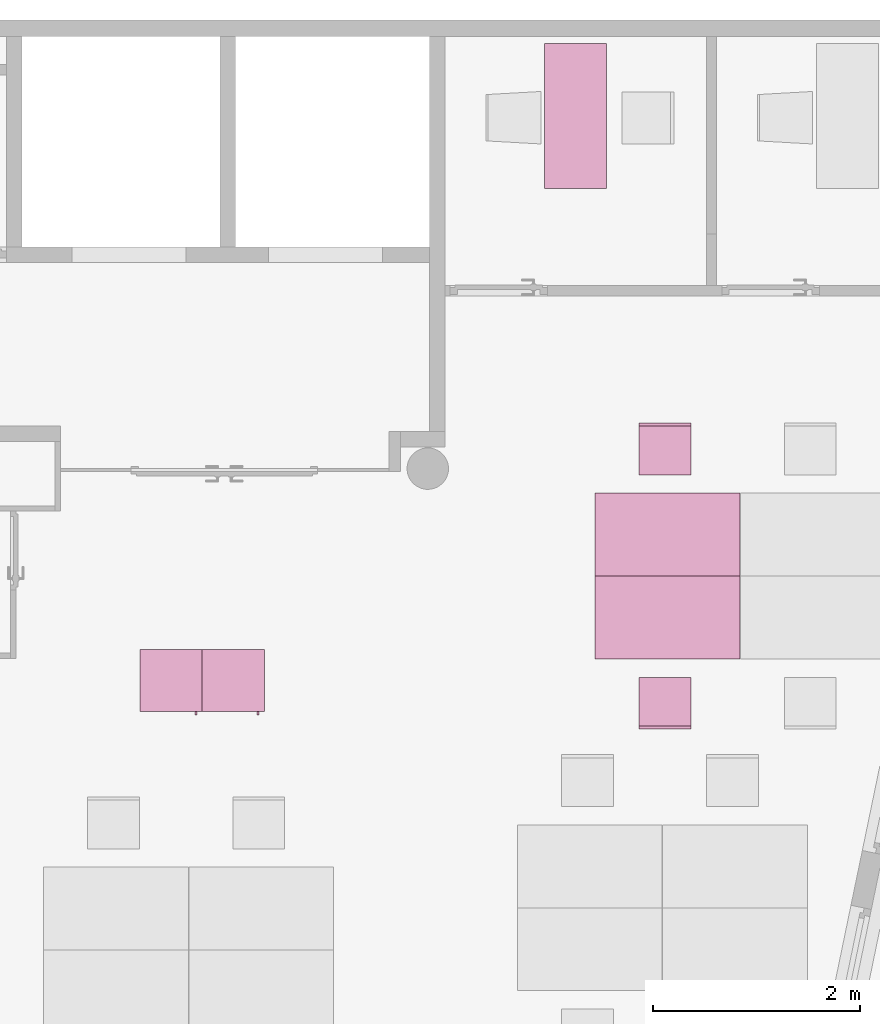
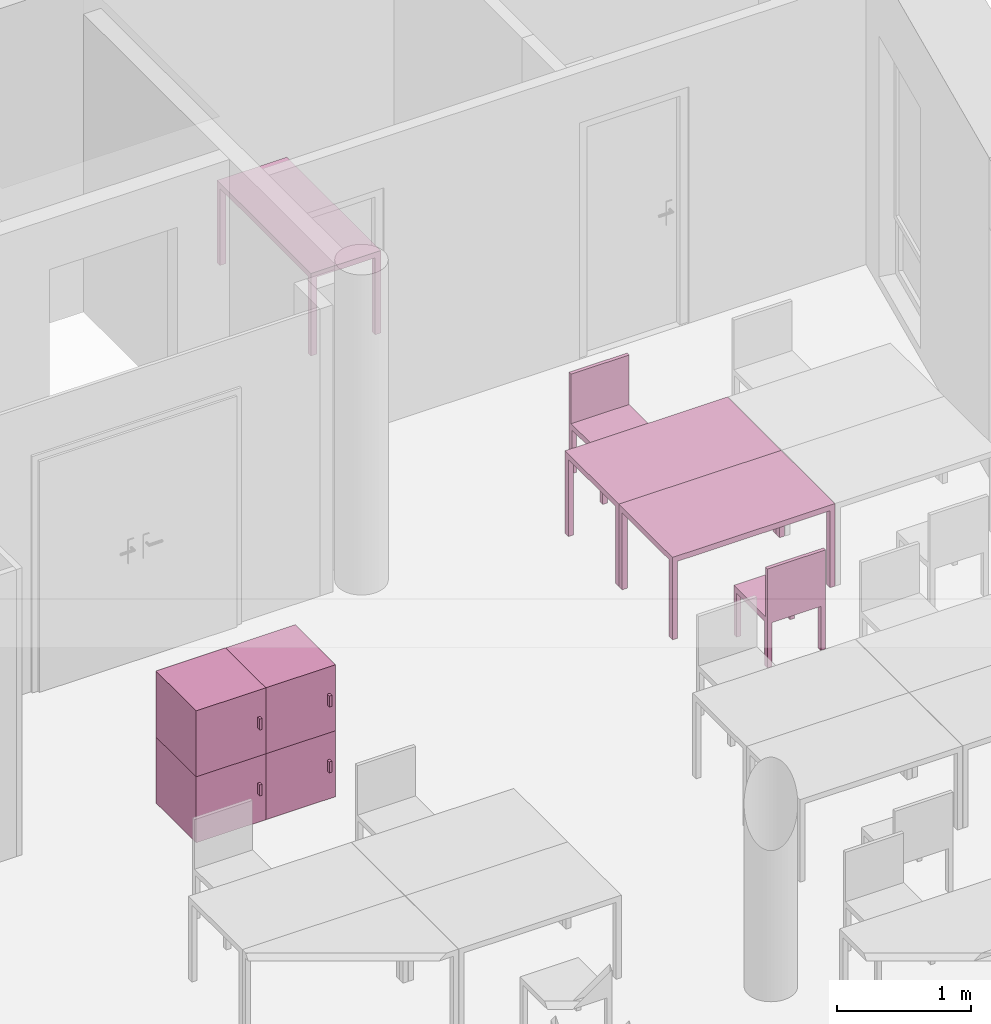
"""IFC4 building model written with IfcOpenShell, lengths in metres."""

from ifc_helpers import new_model, entity, si_unit, converted_unit, derived_unit, frame, origin, place, context, subcontext, project, spatial, faceted_brep, element, save


model = new_model("IFC4")

# Units and contexts
model_context = context("Model", 3, precision=1e-05, world=origin())
body_context = subcontext(model_context, "Body", "Model", "MODEL_VIEW")
ifc_project = project(units=[si_unit("LENGTHUNIT", "METRE"), si_unit("AREAUNIT", "SQUARE_METRE"), si_unit("VOLUMEUNIT", "CUBIC_METRE"), si_unit("MASSUNIT", "GRAM", prefix="KILO"), converted_unit("PLANEANGLEUNIT", "DEGREE", entity("IfcPlaneAngleMeasure", 0.0174532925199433), si_unit("PLANEANGLEUNIT", "RADIAN"), dimensions=[0, 0, 0, 0, 0, 0, 0]), derived_unit("THERMALTRANSMITTANCEUNIT", [(si_unit("POWERUNIT", "WATT"), 1), (si_unit("THERMODYNAMICTEMPERATUREUNIT", "KELVIN"), -1), (si_unit("LENGTHUNIT", "METRE"), -2)]), derived_unit("VOLUMETRICFLOWRATEUNIT", [(si_unit("LENGTHUNIT", "METRE"), 3), (converted_unit("TIMEUNIT", "hour", entity("IfcTimeMeasure", 3600.0), si_unit("TIMEUNIT", "SECOND"), dimensions=[0, 0, 1, 0, 0, 0, 0]), -1), (si_unit("LENGTHUNIT", "METRE"), -1)])], contexts=[model_context])

# Building, storeys
building_placement = place(None, origin())
building = spatial("IfcBuilding", under=ifc_project, at=building_placement, Name="HABITATGE PLURIFAMILIAR", CompositionType="ELEMENT")
storey_1_placement = place(building_placement, frame((0.0, 0.0, 18.29)))
storey_1 = spatial("IfcBuildingStorey", under=building, at=storey_1_placement, Name="PLANTA CINQUENA", CompositionType="ELEMENT", Elevation=18.29)
storey_2_placement = place(storey_1_placement, frame((0.0, 0.0, 15.28)))
storey_2 = spatial("IfcBuildingStorey", under=storey_1, at=storey_2_placement, Name="NOU", CompositionType="PARTIAL")

# Furniture
furniture_1_placement = place(storey_2_placement, frame((418.815159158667, 21.5243582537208, -15.2800000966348)))
element("IfcFurniture", 1, at=furniture_1_placement, inside=storey_2, Name="Armai 60x60x60_P5", context=body_context, shape_type="Brep", body=[
    faceted_brep([(0.600000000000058, 0.0300000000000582, 0.02), (0.600000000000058, 0.0300000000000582, 0.0), (0.0, 0.0300000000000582, 0.0), (0.0, 0.0300000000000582, 0.02), (0.0, 0.630000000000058, 0.0), (0.0, 0.630000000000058, 0.02), (0.600000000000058, 0.630000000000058, 0.0), (0.600000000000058, 0.630000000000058, 0.02)], [[[0, 1, 2, 3]], [[3, 2, 4, 5]], [[5, 4, 6, 7]], [[7, 6, 1, 0]], [[0, 3, 5, 7]], [[1, 6, 4, 2]]], orient=[[False], [False], [False], [False], [False], [False]]),
    faceted_brep([(0.02, 0.63, 0.58), (0.02, 0.61, 0.58), (0.02, 0.61, 0.02), (0.02, 0.63, 0.02), (0.58, 0.61, 0.02), (0.58, 0.63, 0.02), (0.58, 0.61, 0.58), (0.58, 0.63, 0.58)], [[[0, 1, 2, 3]], [[3, 2, 4, 5]], [[5, 4, 6, 7]], [[7, 6, 1, 0]], [[0, 3, 5, 7]], [[1, 6, 4, 2]]], orient=[[False], [False], [False], [False], [False], [False]]),
    faceted_brep([(0.58, 0.0300000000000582, 0.58), (0.6, 0.0300000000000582, 0.58), (0.6, 0.0300000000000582, 0.02), (0.58, 0.0300000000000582, 0.02), (0.6, 0.630000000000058, 0.02), (0.58, 0.630000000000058, 0.02), (0.6, 0.630000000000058, 0.58), (0.58, 0.630000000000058, 0.58)], [[[0, 1, 2, 3]], [[3, 2, 4, 5]], [[5, 4, 6, 7]], [[7, 6, 1, 0]], [[0, 3, 5, 7]], [[1, 6, 4, 2]]], orient=[[False], [False], [False], [False], [False], [False]]),
    faceted_brep([(0.600000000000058, 0.0500000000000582, 0.58), (0.600000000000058, 0.0300000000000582, 0.58), (0.600000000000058, 0.0300000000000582, 0.02), (0.600000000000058, 0.0500000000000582, 0.02), (0.580000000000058, 0.0300000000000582, 0.02), (0.580000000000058, 0.0500000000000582, 0.02), (0.580000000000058, 0.0300000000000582, 0.58), (0.580000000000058, 0.0500000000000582, 0.58)], [[[0, 1, 2, 3]], [[3, 2, 4, 5]], [[5, 4, 6, 7]], [[7, 6, 1, 0]], [[0, 3, 5, 7]], [[1, 6, 4, 2]]], orient=[[False], [False], [False], [False], [False], [False]]),
    faceted_brep([(0.0, 0.0300000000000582, 0.58), (0.0200000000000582, 0.0300000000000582, 0.58), (0.0200000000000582, 0.0300000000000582, 0.02), (0.0, 0.0300000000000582, 0.02), (0.0200000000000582, 0.630000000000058, 0.02), (0.0, 0.630000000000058, 0.02), (0.0200000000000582, 0.630000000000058, 0.58), (0.0, 0.630000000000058, 0.58)], [[[0, 1, 2, 3]], [[3, 2, 4, 5]], [[5, 4, 6, 7]], [[7, 6, 1, 0]], [[0, 3, 5, 7]], [[1, 6, 4, 2]]], orient=[[False], [False], [False], [False], [False], [False]]),
    faceted_brep([(0.6, 0.03, 0.6), (0.6, 0.03, 0.58), (0.0, 0.03, 0.58), (0.0, 0.03, 0.6), (0.0, 0.63, 0.58), (0.0, 0.63, 0.6), (0.6, 0.63, 0.58), (0.6, 0.63, 0.6)], [[[0, 1, 2, 3]], [[3, 2, 4, 5]], [[5, 4, 6, 7]], [[7, 6, 1, 0]], [[0, 3, 5, 7]], [[1, 6, 4, 2]]], orient=[[False], [False], [False], [False], [False], [False]]),
    faceted_brep([(0.02, 0.05, 0.58), (0.02, 0.03, 0.58), (0.02, 0.03, 0.02), (0.02, 0.05, 0.02), (0.580000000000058, 0.03, 0.02), (0.580000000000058, 0.05, 0.02), (0.580000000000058, 0.03, 0.58), (0.580000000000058, 0.05, 0.58)], [[[0, 1, 2, 3]], [[3, 2, 4, 5]], [[5, 4, 6, 7]], [[7, 6, 1, 0]], [[0, 3, 5, 7]], [[1, 6, 4, 2]]], orient=[[False], [False], [False], [False], [False], [False]]),
    faceted_brep([(0.53, 0.03, 0.358064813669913), (0.53, 0.0, 0.358064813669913), (0.53, 0.0, 0.258064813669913), (0.53, 0.03, 0.258064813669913), (0.55, 0.0, 0.258064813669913), (0.55, 0.03, 0.258064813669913), (0.55, 0.0, 0.358064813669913), (0.55, 0.03, 0.358064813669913)], [[[0, 1, 2, 3]], [[3, 2, 4, 5]], [[5, 4, 6, 7]], [[7, 6, 1, 0]], [[0, 3, 5, 7]], [[1, 6, 4, 2]]], orient=[[False], [False], [False], [False], [False], [False]]),
])
furniture_2_placement = place(storey_2_placement, frame((418.215159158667, 21.5243582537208, -15.2800000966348)))
element("IfcFurniture", 2, at=furniture_2_placement, inside=storey_2, Name="Armai 60x60x60_P5", context=body_context, shape_type="Brep", body=[
    faceted_brep([(0.600000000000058, 0.0300000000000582, 0.02), (0.600000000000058, 0.0300000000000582, 0.0), (0.0, 0.0300000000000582, 0.0), (0.0, 0.0300000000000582, 0.02), (0.0, 0.630000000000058, 0.0), (0.0, 0.630000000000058, 0.02), (0.600000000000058, 0.630000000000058, 0.0), (0.600000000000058, 0.630000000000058, 0.02)], [[[0, 1, 2, 3]], [[3, 2, 4, 5]], [[5, 4, 6, 7]], [[7, 6, 1, 0]], [[0, 3, 5, 7]], [[1, 6, 4, 2]]], orient=[[False], [False], [False], [False], [False], [False]]),
    faceted_brep([(0.02, 0.63, 0.58), (0.02, 0.61, 0.58), (0.02, 0.61, 0.02), (0.02, 0.63, 0.02), (0.58, 0.61, 0.02), (0.58, 0.63, 0.02), (0.58, 0.61, 0.58), (0.58, 0.63, 0.58)], [[[0, 1, 2, 3]], [[3, 2, 4, 5]], [[5, 4, 6, 7]], [[7, 6, 1, 0]], [[0, 3, 5, 7]], [[1, 6, 4, 2]]], orient=[[False], [False], [False], [False], [False], [False]]),
    faceted_brep([(0.58, 0.0300000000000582, 0.58), (0.6, 0.0300000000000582, 0.58), (0.6, 0.0300000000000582, 0.02), (0.58, 0.0300000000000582, 0.02), (0.6, 0.630000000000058, 0.02), (0.58, 0.630000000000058, 0.02), (0.6, 0.630000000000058, 0.58), (0.58, 0.630000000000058, 0.58)], [[[0, 1, 2, 3]], [[3, 2, 4, 5]], [[5, 4, 6, 7]], [[7, 6, 1, 0]], [[0, 3, 5, 7]], [[1, 6, 4, 2]]], orient=[[False], [False], [False], [False], [False], [False]]),
    faceted_brep([(0.600000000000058, 0.0500000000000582, 0.58), (0.600000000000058, 0.0300000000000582, 0.58), (0.600000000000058, 0.0300000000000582, 0.02), (0.600000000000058, 0.0500000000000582, 0.02), (0.580000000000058, 0.0300000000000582, 0.02), (0.580000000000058, 0.0500000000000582, 0.02), (0.580000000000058, 0.0300000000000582, 0.58), (0.580000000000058, 0.0500000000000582, 0.58)], [[[0, 1, 2, 3]], [[3, 2, 4, 5]], [[5, 4, 6, 7]], [[7, 6, 1, 0]], [[0, 3, 5, 7]], [[1, 6, 4, 2]]], orient=[[False], [False], [False], [False], [False], [False]]),
    faceted_brep([(0.0, 0.0300000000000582, 0.58), (0.0200000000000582, 0.0300000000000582, 0.58), (0.0200000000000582, 0.0300000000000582, 0.02), (0.0, 0.0300000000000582, 0.02), (0.0200000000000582, 0.630000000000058, 0.02), (0.0, 0.630000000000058, 0.02), (0.0200000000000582, 0.630000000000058, 0.58), (0.0, 0.630000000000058, 0.58)], [[[0, 1, 2, 3]], [[3, 2, 4, 5]], [[5, 4, 6, 7]], [[7, 6, 1, 0]], [[0, 3, 5, 7]], [[1, 6, 4, 2]]], orient=[[False], [False], [False], [False], [False], [False]]),
    faceted_brep([(0.6, 0.03, 0.6), (0.6, 0.03, 0.58), (0.0, 0.03, 0.58), (0.0, 0.03, 0.6), (0.0, 0.63, 0.58), (0.0, 0.63, 0.6), (0.6, 0.63, 0.58), (0.6, 0.63, 0.6)], [[[0, 1, 2, 3]], [[3, 2, 4, 5]], [[5, 4, 6, 7]], [[7, 6, 1, 0]], [[0, 3, 5, 7]], [[1, 6, 4, 2]]], orient=[[False], [False], [False], [False], [False], [False]]),
    faceted_brep([(0.02, 0.05, 0.58), (0.02, 0.03, 0.58), (0.02, 0.03, 0.02), (0.02, 0.05, 0.02), (0.580000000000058, 0.03, 0.02), (0.580000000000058, 0.05, 0.02), (0.580000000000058, 0.03, 0.58), (0.580000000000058, 0.05, 0.58)], [[[0, 1, 2, 3]], [[3, 2, 4, 5]], [[5, 4, 6, 7]], [[7, 6, 1, 0]], [[0, 3, 5, 7]], [[1, 6, 4, 2]]], orient=[[False], [False], [False], [False], [False], [False]]),
    faceted_brep([(0.53, 0.03, 0.358064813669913), (0.53, 0.0, 0.358064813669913), (0.53, 0.0, 0.258064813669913), (0.53, 0.03, 0.258064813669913), (0.55, 0.0, 0.258064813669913), (0.55, 0.03, 0.258064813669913), (0.55, 0.0, 0.358064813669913), (0.55, 0.03, 0.358064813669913)], [[[0, 1, 2, 3]], [[3, 2, 4, 5]], [[5, 4, 6, 7]], [[7, 6, 1, 0]], [[0, 3, 5, 7]], [[1, 6, 4, 2]]], orient=[[False], [False], [False], [False], [False], [False]]),
])
furniture_3_placement = place(storey_2_placement, frame((422.606825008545, 22.8623892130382, -15.28)))
element("IfcFurniture", 3, at=furniture_3_placement, inside=storey_2, Name="Taula 140X80_P5", context=body_context, shape_type="Brep", body=[
    faceted_brep([(0.04375, 0.05, 0.0), (0.0, 0.05, 0.0), (0.0, 0.0, 0.0), (0.04375, 0.0, 0.0), (0.04375, 0.0, 0.7), (0.0, 0.0, 0.7), (0.0, 0.05, 0.7), (0.04375, 0.05, 0.7)], [[[0, 1, 2, 3]], [[4, 5, 6, 7]], [[3, 4, 7, 0]], [[2, 5, 4, 3]], [[1, 6, 5, 2]], [[0, 7, 6, 1]]], orient=[[False], [False], [False], [False], [False], [False]]),
    faceted_brep([(0.04375, 0.800069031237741, 0.0), (0.0, 0.800069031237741, 0.0), (0.0, 0.750069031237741, 0.0), (0.04375, 0.750069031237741, 0.0), (0.04375, 0.750069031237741, 0.7), (0.0, 0.750069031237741, 0.7), (0.0, 0.800069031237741, 0.7), (0.04375, 0.800069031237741, 0.7)], [[[0, 1, 2, 3]], [[4, 5, 6, 7]], [[3, 4, 7, 0]], [[2, 5, 4, 3]], [[1, 6, 5, 2]], [[0, 7, 6, 1]]], orient=[[False], [False], [False], [False], [False], [False]]),
    faceted_brep([(1.39732768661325, 0.800069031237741, 0.7), (0.0, 0.800069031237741, 0.7), (0.0, 0.0, 0.7), (1.39732768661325, 0.0, 0.7), (1.39732768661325, 0.0, 0.75), (0.0, 0.0, 0.75), (0.0, 0.800069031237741, 0.75), (1.39732768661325, 0.800069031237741, 0.75)], [[[0, 1, 2, 3]], [[4, 5, 6, 7]], [[3, 4, 7, 0]], [[2, 5, 4, 3]], [[1, 6, 5, 2]], [[0, 7, 6, 1]]], orient=[[False], [False], [False], [False], [False], [False]]),
    faceted_brep([(1.39732768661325, 0.05, 0.0), (1.35357768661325, 0.05, 0.0), (1.35357768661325, 0.0, 0.0), (1.39732768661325, 0.0, 0.0), (1.39732768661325, 0.0, 0.7), (1.35357768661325, 0.0, 0.7), (1.35357768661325, 0.05, 0.7), (1.39732768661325, 0.05, 0.7)], [[[0, 1, 2, 3]], [[4, 5, 6, 7]], [[3, 4, 7, 0]], [[2, 5, 4, 3]], [[1, 6, 5, 2]], [[0, 7, 6, 1]]], orient=[[False], [False], [False], [False], [False], [False]]),
    faceted_brep([(1.39732768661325, 0.800069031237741, 0.0), (1.35357768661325, 0.800069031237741, 0.0), (1.35357768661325, 0.750069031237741, 0.0), (1.39732768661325, 0.750069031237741, 0.0), (1.39732768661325, 0.750069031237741, 0.7), (1.35357768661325, 0.750069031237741, 0.7), (1.35357768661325, 0.800069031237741, 0.7), (1.39732768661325, 0.800069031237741, 0.7)], [[[0, 1, 2, 3]], [[4, 5, 6, 7]], [[3, 4, 7, 0]], [[2, 5, 4, 3]], [[1, 6, 5, 2]], [[0, 7, 6, 1]]], orient=[[False], [False], [False], [False], [False], [False]]),
])
furniture_4_placement = place(storey_2_placement, frame((422.606825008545, 22.0623201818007, -15.28)))
element("IfcFurniture", 4, at=furniture_4_placement, inside=storey_2, Name="Taula 140X80_P5", context=body_context, shape_type="Brep", body=[
    faceted_brep([(0.04375, 0.750069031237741, 0.0), (0.04375, 0.800069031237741, 0.0), (0.0, 0.800069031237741, 0.0), (0.0, 0.750069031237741, 0.0), (0.04375, 0.800069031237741, 0.7), (0.04375, 0.750069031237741, 0.7), (0.0, 0.750069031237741, 0.7), (0.0, 0.800069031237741, 0.7)], [[[0, 1, 2, 3]], [[4, 5, 6, 7]], [[1, 0, 5, 4]], [[2, 1, 4, 7]], [[3, 2, 7, 6]], [[0, 3, 6, 5]]], orient=[[False], [False], [False], [False], [False], [False]]),
    faceted_brep([(0.04375, 0.0, 0.0), (0.04375, 0.05, 0.0), (0.0, 0.05, 0.0), (0.0, 0.0, 0.0), (0.04375, 0.05, 0.7), (0.04375, 0.0, 0.7), (0.0, 0.0, 0.7), (0.0, 0.05, 0.7)], [[[0, 1, 2, 3]], [[4, 5, 6, 7]], [[1, 0, 5, 4]], [[2, 1, 4, 7]], [[3, 2, 7, 6]], [[0, 3, 6, 5]]], orient=[[False], [False], [False], [False], [False], [False]]),
    faceted_brep([(1.39732768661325, 0.0, 0.7), (1.39732768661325, 0.800069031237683, 0.7), (0.0, 0.800069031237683, 0.7), (0.0, 0.0, 0.7), (1.39732768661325, 0.800069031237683, 0.75), (1.39732768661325, 0.0, 0.75), (0.0, 0.0, 0.75), (0.0, 0.800069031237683, 0.75)], [[[0, 1, 2, 3]], [[4, 5, 6, 7]], [[1, 0, 5, 4]], [[2, 1, 4, 7]], [[3, 2, 7, 6]], [[0, 3, 6, 5]]], orient=[[False], [False], [False], [False], [False], [False]]),
    faceted_brep([(1.39732768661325, 0.750069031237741, 0.0), (1.39732768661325, 0.800069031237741, 0.0), (1.35357768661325, 0.800069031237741, 0.0), (1.35357768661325, 0.750069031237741, 0.0), (1.39732768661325, 0.800069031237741, 0.7), (1.39732768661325, 0.750069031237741, 0.7), (1.35357768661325, 0.750069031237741, 0.7), (1.35357768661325, 0.800069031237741, 0.7)], [[[0, 1, 2, 3]], [[4, 5, 6, 7]], [[1, 0, 5, 4]], [[2, 1, 4, 7]], [[3, 2, 7, 6]], [[0, 3, 6, 5]]], orient=[[False], [False], [False], [False], [False], [False]]),
    faceted_brep([(1.39732768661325, 0.0, 0.0), (1.39732768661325, 0.05, 0.0), (1.35357768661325, 0.05, 0.0), (1.35357768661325, 0.0, 0.0), (1.39732768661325, 0.05, 0.7), (1.39732768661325, 0.0, 0.7), (1.35357768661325, 0.0, 0.7), (1.35357768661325, 0.05, 0.7)], [[[0, 1, 2, 3]], [[4, 5, 6, 7]], [[1, 0, 5, 4]], [[2, 1, 4, 7]], [[3, 2, 7, 6]], [[0, 3, 6, 5]]], orient=[[False], [False], [False], [False], [False], [False]]),
])
furniture_5_placement = place(storey_2_placement, frame((418.815159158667, 21.5243582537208, -14.6800000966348)))
element("IfcFurniture", 5, at=furniture_5_placement, inside=storey_2, Name="Armai 60x60x60_P5", context=body_context, shape_type="Brep", body=[
    faceted_brep([(0.600000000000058, 0.0300000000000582, 0.02), (0.600000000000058, 0.0300000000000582, 0.0), (0.0, 0.0300000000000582, 0.0), (0.0, 0.0300000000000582, 0.02), (0.0, 0.630000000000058, 0.0), (0.0, 0.630000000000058, 0.02), (0.600000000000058, 0.630000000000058, 0.0), (0.600000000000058, 0.630000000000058, 0.02)], [[[0, 1, 2, 3]], [[3, 2, 4, 5]], [[5, 4, 6, 7]], [[7, 6, 1, 0]], [[0, 3, 5, 7]], [[1, 6, 4, 2]]], orient=[[False], [False], [False], [False], [False], [False]]),
    faceted_brep([(0.02, 0.63, 0.58), (0.02, 0.61, 0.58), (0.02, 0.61, 0.02), (0.02, 0.63, 0.02), (0.58, 0.61, 0.02), (0.58, 0.63, 0.02), (0.58, 0.61, 0.58), (0.58, 0.63, 0.58)], [[[0, 1, 2, 3]], [[3, 2, 4, 5]], [[5, 4, 6, 7]], [[7, 6, 1, 0]], [[0, 3, 5, 7]], [[1, 6, 4, 2]]], orient=[[False], [False], [False], [False], [False], [False]]),
    faceted_brep([(0.58, 0.0300000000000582, 0.58), (0.6, 0.0300000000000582, 0.58), (0.6, 0.0300000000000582, 0.02), (0.58, 0.0300000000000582, 0.02), (0.6, 0.630000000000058, 0.02), (0.58, 0.630000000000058, 0.02), (0.6, 0.630000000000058, 0.58), (0.58, 0.630000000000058, 0.58)], [[[0, 1, 2, 3]], [[3, 2, 4, 5]], [[5, 4, 6, 7]], [[7, 6, 1, 0]], [[0, 3, 5, 7]], [[1, 6, 4, 2]]], orient=[[False], [False], [False], [False], [False], [False]]),
    faceted_brep([(0.600000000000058, 0.0500000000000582, 0.58), (0.600000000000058, 0.0300000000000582, 0.58), (0.600000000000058, 0.0300000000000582, 0.02), (0.600000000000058, 0.0500000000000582, 0.02), (0.580000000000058, 0.0300000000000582, 0.02), (0.580000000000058, 0.0500000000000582, 0.02), (0.580000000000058, 0.0300000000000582, 0.58), (0.580000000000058, 0.0500000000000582, 0.58)], [[[0, 1, 2, 3]], [[3, 2, 4, 5]], [[5, 4, 6, 7]], [[7, 6, 1, 0]], [[0, 3, 5, 7]], [[1, 6, 4, 2]]], orient=[[False], [False], [False], [False], [False], [False]]),
    faceted_brep([(0.0, 0.0300000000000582, 0.58), (0.0200000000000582, 0.0300000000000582, 0.58), (0.0200000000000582, 0.0300000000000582, 0.02), (0.0, 0.0300000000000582, 0.02), (0.0200000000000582, 0.630000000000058, 0.02), (0.0, 0.630000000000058, 0.02), (0.0200000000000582, 0.630000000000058, 0.58), (0.0, 0.630000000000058, 0.58)], [[[0, 1, 2, 3]], [[3, 2, 4, 5]], [[5, 4, 6, 7]], [[7, 6, 1, 0]], [[0, 3, 5, 7]], [[1, 6, 4, 2]]], orient=[[False], [False], [False], [False], [False], [False]]),
    faceted_brep([(0.6, 0.03, 0.6), (0.6, 0.03, 0.58), (0.0, 0.03, 0.58), (0.0, 0.03, 0.6), (0.0, 0.63, 0.58), (0.0, 0.63, 0.6), (0.6, 0.63, 0.58), (0.6, 0.63, 0.6)], [[[0, 1, 2, 3]], [[3, 2, 4, 5]], [[5, 4, 6, 7]], [[7, 6, 1, 0]], [[0, 3, 5, 7]], [[1, 6, 4, 2]]], orient=[[False], [False], [False], [False], [False], [False]]),
    faceted_brep([(0.02, 0.05, 0.58), (0.02, 0.03, 0.58), (0.02, 0.03, 0.02), (0.02, 0.05, 0.02), (0.580000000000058, 0.03, 0.02), (0.580000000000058, 0.05, 0.02), (0.580000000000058, 0.03, 0.58), (0.580000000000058, 0.05, 0.58)], [[[0, 1, 2, 3]], [[3, 2, 4, 5]], [[5, 4, 6, 7]], [[7, 6, 1, 0]], [[0, 3, 5, 7]], [[1, 6, 4, 2]]], orient=[[False], [False], [False], [False], [False], [False]]),
    faceted_brep([(0.53, 0.03, 0.358064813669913), (0.53, 0.0, 0.358064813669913), (0.53, 0.0, 0.258064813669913), (0.53, 0.03, 0.258064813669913), (0.55, 0.0, 0.258064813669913), (0.55, 0.03, 0.258064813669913), (0.55, 0.0, 0.358064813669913), (0.55, 0.03, 0.358064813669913)], [[[0, 1, 2, 3]], [[3, 2, 4, 5]], [[5, 4, 6, 7]], [[7, 6, 1, 0]], [[0, 3, 5, 7]], [[1, 6, 4, 2]]], orient=[[False], [False], [False], [False], [False], [False]]),
])
furniture_6_placement = place(storey_2_placement, frame((418.215159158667, 21.5243582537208, -14.6800000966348)))
element("IfcFurniture", 6, at=furniture_6_placement, inside=storey_2, Name="Armai 60x60x60_P5", context=body_context, shape_type="Brep", body=[
    faceted_brep([(0.600000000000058, 0.0300000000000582, 0.02), (0.600000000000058, 0.0300000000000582, 0.0), (0.0, 0.0300000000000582, 0.0), (0.0, 0.0300000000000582, 0.02), (0.0, 0.630000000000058, 0.0), (0.0, 0.630000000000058, 0.02), (0.600000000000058, 0.630000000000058, 0.0), (0.600000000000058, 0.630000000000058, 0.02)], [[[0, 1, 2, 3]], [[3, 2, 4, 5]], [[5, 4, 6, 7]], [[7, 6, 1, 0]], [[0, 3, 5, 7]], [[1, 6, 4, 2]]], orient=[[False], [False], [False], [False], [False], [False]]),
    faceted_brep([(0.02, 0.63, 0.58), (0.02, 0.61, 0.58), (0.02, 0.61, 0.02), (0.02, 0.63, 0.02), (0.58, 0.61, 0.02), (0.58, 0.63, 0.02), (0.58, 0.61, 0.58), (0.58, 0.63, 0.58)], [[[0, 1, 2, 3]], [[3, 2, 4, 5]], [[5, 4, 6, 7]], [[7, 6, 1, 0]], [[0, 3, 5, 7]], [[1, 6, 4, 2]]], orient=[[False], [False], [False], [False], [False], [False]]),
    faceted_brep([(0.58, 0.0300000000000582, 0.58), (0.6, 0.0300000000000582, 0.58), (0.6, 0.0300000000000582, 0.02), (0.58, 0.0300000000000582, 0.02), (0.6, 0.630000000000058, 0.02), (0.58, 0.630000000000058, 0.02), (0.6, 0.630000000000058, 0.58), (0.58, 0.630000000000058, 0.58)], [[[0, 1, 2, 3]], [[3, 2, 4, 5]], [[5, 4, 6, 7]], [[7, 6, 1, 0]], [[0, 3, 5, 7]], [[1, 6, 4, 2]]], orient=[[False], [False], [False], [False], [False], [False]]),
    faceted_brep([(0.600000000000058, 0.0500000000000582, 0.58), (0.600000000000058, 0.0300000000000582, 0.58), (0.600000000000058, 0.0300000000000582, 0.02), (0.600000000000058, 0.0500000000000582, 0.02), (0.580000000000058, 0.0300000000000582, 0.02), (0.580000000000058, 0.0500000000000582, 0.02), (0.580000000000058, 0.0300000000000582, 0.58), (0.580000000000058, 0.0500000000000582, 0.58)], [[[0, 1, 2, 3]], [[3, 2, 4, 5]], [[5, 4, 6, 7]], [[7, 6, 1, 0]], [[0, 3, 5, 7]], [[1, 6, 4, 2]]], orient=[[False], [False], [False], [False], [False], [False]]),
    faceted_brep([(0.0, 0.0300000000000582, 0.58), (0.0200000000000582, 0.0300000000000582, 0.58), (0.0200000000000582, 0.0300000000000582, 0.02), (0.0, 0.0300000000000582, 0.02), (0.0200000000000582, 0.630000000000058, 0.02), (0.0, 0.630000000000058, 0.02), (0.0200000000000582, 0.630000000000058, 0.58), (0.0, 0.630000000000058, 0.58)], [[[0, 1, 2, 3]], [[3, 2, 4, 5]], [[5, 4, 6, 7]], [[7, 6, 1, 0]], [[0, 3, 5, 7]], [[1, 6, 4, 2]]], orient=[[False], [False], [False], [False], [False], [False]]),
    faceted_brep([(0.6, 0.03, 0.6), (0.6, 0.03, 0.58), (0.0, 0.03, 0.58), (0.0, 0.03, 0.6), (0.0, 0.63, 0.58), (0.0, 0.63, 0.6), (0.6, 0.63, 0.58), (0.6, 0.63, 0.6)], [[[0, 1, 2, 3]], [[3, 2, 4, 5]], [[5, 4, 6, 7]], [[7, 6, 1, 0]], [[0, 3, 5, 7]], [[1, 6, 4, 2]]], orient=[[False], [False], [False], [False], [False], [False]]),
    faceted_brep([(0.02, 0.05, 0.58), (0.02, 0.03, 0.58), (0.02, 0.03, 0.02), (0.02, 0.05, 0.02), (0.580000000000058, 0.03, 0.02), (0.580000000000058, 0.05, 0.02), (0.580000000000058, 0.03, 0.58), (0.580000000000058, 0.05, 0.58)], [[[0, 1, 2, 3]], [[3, 2, 4, 5]], [[5, 4, 6, 7]], [[7, 6, 1, 0]], [[0, 3, 5, 7]], [[1, 6, 4, 2]]], orient=[[False], [False], [False], [False], [False], [False]]),
    faceted_brep([(0.53, 0.03, 0.358064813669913), (0.53, 0.0, 0.358064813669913), (0.53, 0.0, 0.258064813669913), (0.53, 0.03, 0.258064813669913), (0.55, 0.0, 0.258064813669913), (0.55, 0.03, 0.258064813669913), (0.55, 0.0, 0.358064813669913), (0.55, 0.03, 0.358064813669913)], [[[0, 1, 2, 3]], [[3, 2, 4, 5]], [[5, 4, 6, 7]], [[7, 6, 1, 0]], [[0, 3, 5, 7]], [[1, 6, 4, 2]]], orient=[[False], [False], [False], [False], [False], [False]]),
])
furniture_7_placement = place(storey_2_placement, frame((423.031854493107, 23.8391435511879, -15.2746385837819)))
element("IfcFurniture", 7, at=furniture_7_placement, inside=storey_2, Name="Cadira d'Oficina_P5", context=body_context, shape_type="Brep", body=[
    faceted_brep([(0.0, 0.0, 0.4), (0.5, 0.0, 0.4), (0.5, 0.500000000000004, 0.4), (0.0, 0.5, 0.4), (0.0, 0.5, 0.45), (0.5, 0.500000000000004, 0.45), (0.5, 0.0, 0.45), (0.0, 0.0, 0.45)], [[[0, 1, 2, 3]], [[4, 5, 6, 7]], [[3, 4, 7, 0]], [[2, 5, 4, 3]], [[1, 6, 5, 2]], [[0, 7, 6, 1]]], orient=[[False], [False], [False], [False], [False], [False]]),
    faceted_brep([(0.5, 0.460000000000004, 0.0), (0.5, 0.500000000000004, 0.0), (0.46, 0.5, 0.0), (0.46, 0.46, 0.0), (0.46, 0.46, 0.4), (0.46, 0.5, 0.4), (0.5, 0.500000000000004, 0.4), (0.5, 0.460000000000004, 0.4)], [[[0, 1, 2, 3]], [[4, 5, 6, 7]], [[3, 4, 7, 0]], [[2, 5, 4, 3]], [[1, 6, 5, 2]], [[0, 7, 6, 1]]], orient=[[False], [False], [False], [False], [False], [False]]),
    faceted_brep([(0.5, 0.0, 0.0), (0.5, 0.0400000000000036, 0.0), (0.46, 0.04, 0.0), (0.46, 0.0, 0.0), (0.46, 0.0, 0.4), (0.46, 0.04, 0.4), (0.5, 0.0400000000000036, 0.4), (0.5, 0.0, 0.4)], [[[0, 1, 2, 3]], [[4, 5, 6, 7]], [[3, 4, 7, 0]], [[2, 5, 4, 3]], [[1, 6, 5, 2]], [[0, 7, 6, 1]]], orient=[[False], [False], [False], [False], [False], [False]]),
    faceted_brep([(0.04, 0.46, 0.0), (0.04, 0.5, 0.0), (0.0, 0.5, 0.0), (0.0, 0.46, 0.0), (0.0, 0.46, 0.4), (0.0, 0.5, 0.4), (0.04, 0.5, 0.4), (0.04, 0.46, 0.4)], [[[0, 1, 2, 3]], [[4, 5, 6, 7]], [[3, 4, 7, 0]], [[2, 5, 4, 3]], [[1, 6, 5, 2]], [[0, 7, 6, 1]]], orient=[[False], [False], [False], [False], [False], [False]]),
    faceted_brep([(0.04, 0.0, 0.0), (0.04, 0.04, 0.0), (0.0, 0.04, 0.0), (0.0, 0.0, 0.0), (0.0, 0.0, 0.4), (0.0, 0.04, 0.4), (0.04, 0.04, 0.4), (0.04, 0.0, 0.4)], [[[0, 1, 2, 3]], [[4, 5, 6, 7]], [[3, 4, 7, 0]], [[2, 5, 4, 3]], [[1, 6, 5, 2]], [[0, 7, 6, 1]]], orient=[[False], [False], [False], [False], [False], [False]]),
    faceted_brep([(0.5, 0.470000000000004, 0.45), (0.5, 0.500000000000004, 0.45), (0.0, 0.5, 0.45), (0.0, 0.47, 0.45), (0.0, 0.47, 0.9), (0.0, 0.5, 0.9), (0.5, 0.500000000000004, 0.9), (0.5, 0.470000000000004, 0.9)], [[[0, 1, 2, 3]], [[4, 5, 6, 7]], [[3, 4, 7, 0]], [[2, 5, 4, 3]], [[1, 6, 5, 2]], [[0, 7, 6, 1]]], orient=[[False], [False], [False], [False], [False], [False]]),
])
furniture_8_placement = place(storey_2_placement, frame((423.031854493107, 21.3856348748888, -15.2746385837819)))
element("IfcFurniture", 8, at=furniture_8_placement, inside=storey_2, Name="Cadira d'Oficina_P5", context=body_context, shape_type="Brep", body=[
    faceted_brep([(0.0, 0.500000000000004, 0.4), (0.0, 0.0, 0.4), (0.5, 0.0, 0.4), (0.5, 0.5, 0.4), (0.0, 0.0, 0.45), (0.0, 0.500000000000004, 0.45), (0.5, 0.5, 0.45), (0.5, 0.0, 0.45)], [[[0, 1, 2, 3]], [[4, 5, 6, 7]], [[1, 0, 5, 4]], [[2, 1, 4, 7]], [[3, 2, 7, 6]], [[0, 3, 6, 5]]], orient=[[False], [False], [False], [False], [False], [False]]),
    faceted_brep([(0.5, 0.04, 0.0), (0.46, 0.0400000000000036, 0.0), (0.46, 0.0, 0.0), (0.5, 0.0, 0.0), (0.46, 0.0400000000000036, 0.4), (0.5, 0.04, 0.4), (0.5, 0.0, 0.4), (0.46, 0.0, 0.4)], [[[0, 1, 2, 3]], [[4, 5, 6, 7]], [[1, 0, 5, 4]], [[2, 1, 4, 7]], [[3, 2, 7, 6]], [[0, 3, 6, 5]]], orient=[[False], [False], [False], [False], [False], [False]]),
    faceted_brep([(0.5, 0.5, 0.0), (0.46, 0.500000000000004, 0.0), (0.46, 0.460000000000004, 0.0), (0.5, 0.46, 0.0), (0.46, 0.500000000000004, 0.4), (0.5, 0.5, 0.4), (0.5, 0.46, 0.4), (0.46, 0.460000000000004, 0.4)], [[[0, 1, 2, 3]], [[4, 5, 6, 7]], [[1, 0, 5, 4]], [[2, 1, 4, 7]], [[3, 2, 7, 6]], [[0, 3, 6, 5]]], orient=[[False], [False], [False], [False], [False], [False]]),
    faceted_brep([(0.04, 0.0400000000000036, 0.0), (0.0, 0.0400000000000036, 0.0), (0.0, 0.0, 0.0), (0.04, 0.0, 0.0), (0.0, 0.0400000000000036, 0.4), (0.04, 0.0400000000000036, 0.4), (0.04, 0.0, 0.4), (0.0, 0.0, 0.4)], [[[0, 1, 2, 3]], [[4, 5, 6, 7]], [[1, 0, 5, 4]], [[2, 1, 4, 7]], [[3, 2, 7, 6]], [[0, 3, 6, 5]]], orient=[[False], [False], [False], [False], [False], [False]]),
    faceted_brep([(0.04, 0.500000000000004, 0.0), (0.0, 0.500000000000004, 0.0), (0.0, 0.460000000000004, 0.0), (0.04, 0.460000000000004, 0.0), (0.0, 0.500000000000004, 0.4), (0.04, 0.500000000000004, 0.4), (0.04, 0.460000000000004, 0.4), (0.0, 0.460000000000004, 0.4)], [[[0, 1, 2, 3]], [[4, 5, 6, 7]], [[1, 0, 5, 4]], [[2, 1, 4, 7]], [[3, 2, 7, 6]], [[0, 3, 6, 5]]], orient=[[False], [False], [False], [False], [False], [False]]),
    faceted_brep([(0.5, 0.03, 0.45), (0.0, 0.0300000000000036, 0.45), (0.0, 0.0, 0.45), (0.5, 0.0, 0.45), (0.0, 0.0300000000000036, 0.9), (0.5, 0.03, 0.9), (0.5, 0.0, 0.9), (0.0, 0.0, 0.9)], [[[0, 1, 2, 3]], [[4, 5, 6, 7]], [[1, 0, 5, 4]], [[2, 1, 4, 7]], [[3, 2, 7, 6]], [[0, 3, 6, 5]]], orient=[[False], [False], [False], [False], [False], [False]]),
])
furniture_9_placement = place(storey_2_placement, frame((422.118330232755, 26.6019788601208, -15.28)))
element("IfcFurniture", 9, at=furniture_9_placement, inside=storey_2, Name="Taula 140X60_P5", context=body_context, shape_type="Brep", body=[
    faceted_brep([(0.05, 1.35625000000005, 0.0), (0.05, 1.40000000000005, 0.0), (0.0, 1.40000000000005, 0.0), (0.0, 1.35625000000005, 0.0), (0.0, 1.35625000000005, 0.7), (0.0, 1.40000000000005, 0.7), (0.05, 1.40000000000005, 0.7), (0.05, 1.35625000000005, 0.7)], [[[0, 1, 2, 3]], [[4, 5, 6, 7]], [[3, 4, 7, 0]], [[2, 5, 4, 3]], [[1, 6, 5, 2]], [[0, 7, 6, 1]]], orient=[[False], [False], [False], [False], [False], [False]]),
    faceted_brep([(0.600000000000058, 0.0, 0.7), (0.600000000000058, 1.4, 0.7), (0.0, 1.40000000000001, 0.7), (0.0, 0.0, 0.7), (0.0, 0.0, 0.75), (0.0, 1.40000000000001, 0.75), (0.600000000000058, 1.4, 0.75), (0.600000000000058, 0.0, 0.75)], [[[0, 1, 2, 3]], [[4, 5, 6, 7]], [[3, 4, 7, 0]], [[2, 5, 4, 3]], [[1, 6, 5, 2]], [[0, 7, 6, 1]]], orient=[[False], [False], [False], [False], [False], [False]]),
    faceted_brep([(0.0500000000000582, 0.0, 0.0), (0.0500000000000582, 0.0437500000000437, 0.0), (0.0, 0.0437500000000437, 0.0), (0.0, 0.0, 0.0), (0.0, 0.0, 0.7), (0.0, 0.0437500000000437, 0.7), (0.0500000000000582, 0.0437500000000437, 0.7), (0.0500000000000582, 0.0, 0.7)], [[[0, 1, 2, 3]], [[4, 5, 6, 7]], [[3, 4, 7, 0]], [[2, 5, 4, 3]], [[1, 6, 5, 2]], [[0, 7, 6, 1]]], orient=[[False], [False], [False], [False], [False], [False]]),
    faceted_brep([(0.600000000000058, 1.35625000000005, 0.0), (0.600000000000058, 1.40000000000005, 0.0), (0.550000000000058, 1.40000000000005, 0.0), (0.550000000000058, 1.35625000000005, 0.0), (0.550000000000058, 1.35625000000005, 0.7), (0.550000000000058, 1.40000000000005, 0.7), (0.600000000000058, 1.40000000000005, 0.7), (0.600000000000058, 1.35625000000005, 0.7)], [[[0, 1, 2, 3]], [[4, 5, 6, 7]], [[3, 4, 7, 0]], [[2, 5, 4, 3]], [[1, 6, 5, 2]], [[0, 7, 6, 1]]], orient=[[False], [False], [False], [False], [False], [False]]),
    faceted_brep([(0.600000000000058, 0.0, 0.0), (0.600000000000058, 0.0437500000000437, 0.0), (0.550000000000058, 0.0437500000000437, 0.0), (0.550000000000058, 0.0, 0.0), (0.550000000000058, 0.0, 0.7), (0.550000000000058, 0.0437500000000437, 0.7), (0.600000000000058, 0.0437500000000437, 0.7), (0.600000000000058, 0.0, 0.7)], [[[0, 1, 2, 3]], [[4, 5, 6, 7]], [[3, 4, 7, 0]], [[2, 5, 4, 3]], [[1, 6, 5, 2]], [[0, 7, 6, 1]]], orient=[[False], [False], [False], [False], [False], [False]]),
])

save(model, "model.ifc")
